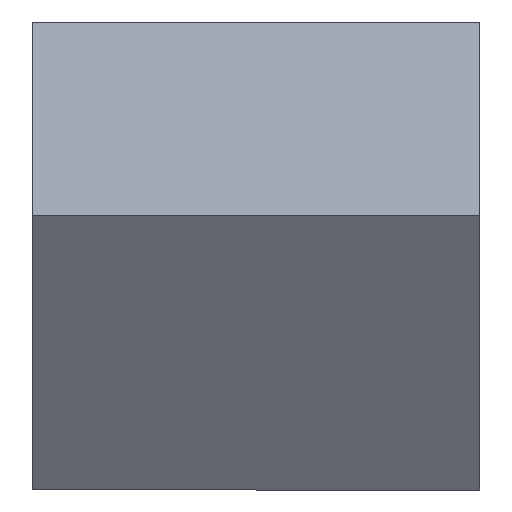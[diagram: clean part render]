
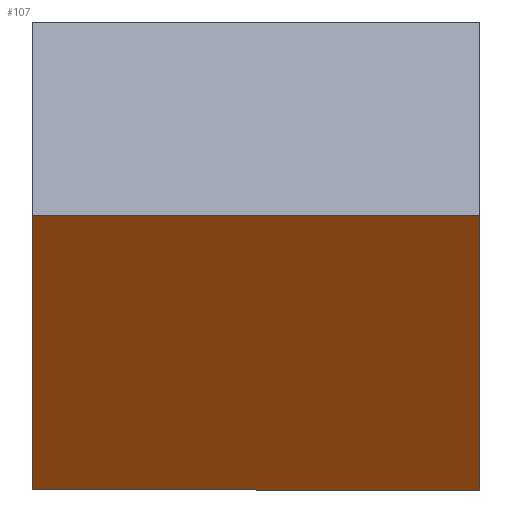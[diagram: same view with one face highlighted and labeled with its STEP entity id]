
A CAD part, isometric view. The second image highlights one B-rep face of the part: STEP entity #107.
In plain terms, the highlighted planar face has unit normal (-0.707, -0.707, 0).
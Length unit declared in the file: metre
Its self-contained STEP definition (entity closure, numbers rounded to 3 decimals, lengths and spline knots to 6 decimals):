
#24=ORIENTED_EDGE('',*,*,#38,.T.);
#25=ORIENTED_EDGE('',*,*,#45,.F.);
#26=ORIENTED_EDGE('',*,*,#42,.F.);
#27=ORIENTED_EDGE('',*,*,#46,.T.);
#38=EDGE_CURVE('',#51,#50,#58,.T.);
#42=EDGE_CURVE('',#54,#55,#62,.T.);
#45=EDGE_CURVE('',#55,#50,#65,.T.);
#46=EDGE_CURVE('',#54,#51,#66,.T.);
#50=VERTEX_POINT('',#198);
#51=VERTEX_POINT('',#200);
#54=VERTEX_POINT('',#207);
#55=VERTEX_POINT('',#209);
#58=LINE('',#199,#70);
#62=LINE('',#208,#74);
#65=LINE('',#213,#77);
#66=LINE('',#215,#78);
#70=VECTOR('',#172,1.);
#74=VECTOR('',#178,1.);
#77=VECTOR('',#183,1.);
#78=VECTOR('',#186,1.);
#83=EDGE_LOOP('',(#24,#25,#26,#27));
#89=FACE_BOUND('',#83,.T.);
#95=PLANE('',#163);
#107=ADVANCED_FACE('',(#89),#95,.F.);
#163=AXIS2_PLACEMENT_3D('',#214,#184,#185);
#172=DIRECTION('',(0.707,-0.707,0.));
#178=DIRECTION('',(0.707,-0.707,0.));
#183=DIRECTION('',(0.,0.,-1.));
#184=DIRECTION('',(0.707,0.707,0.));
#185=DIRECTION('',(-0.707,0.707,0.));
#186=DIRECTION('',(0.,0.,-1.));
#198=CARTESIAN_POINT('',(0.004635,-0.002147,0.0005));
#199=CARTESIAN_POINT('',(0.004353,-0.001865,0.0005));
#200=CARTESIAN_POINT('',(0.004353,-0.001865,0.0005));
#207=CARTESIAN_POINT('',(0.004353,-0.001865,0.0008));
#208=CARTESIAN_POINT('',(0.004353,-0.001865,0.0008));
#209=CARTESIAN_POINT('',(0.004635,-0.002147,0.0008));
#213=CARTESIAN_POINT('',(0.004635,-0.002147,0.0008));
#214=CARTESIAN_POINT('',(0.004353,-0.001865,0.0008));
#215=CARTESIAN_POINT('',(0.004353,-0.001865,0.0008));
